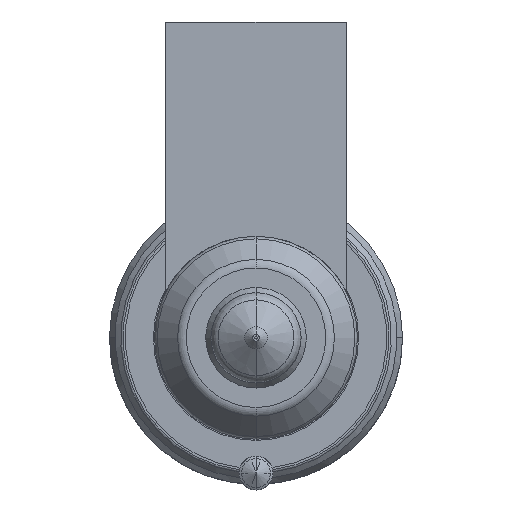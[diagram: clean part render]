
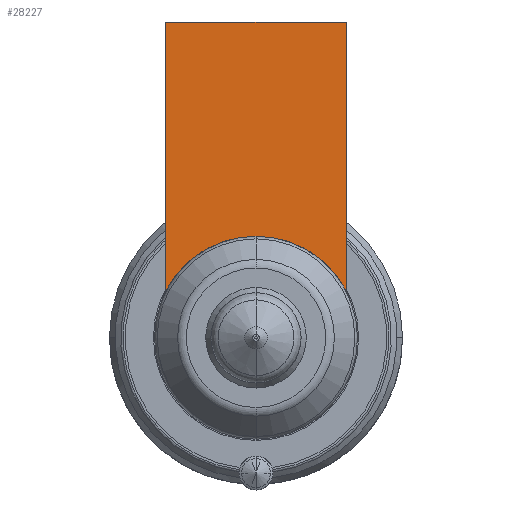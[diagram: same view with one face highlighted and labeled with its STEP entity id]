
A CAD part, front view. The second image highlights one B-rep face of the part: STEP entity #28227.
In plain terms, the highlighted planar face has unit normal (0, -1, 0).
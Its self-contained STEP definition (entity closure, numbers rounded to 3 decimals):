
#27406=DIRECTION('',(1.,0.,0.));
#27407=VECTOR('',#27406,16.);
#27408=CARTESIAN_POINT('',(-8.,-54.,28.));
#27409=LINE('',#27408,#27407);
#27414=CARTESIAN_POINT('',(0.,-54.,0.));
#27415=DIRECTION('',(0.,-1.,0.));
#27416=DIRECTION('',(0.889,0.,0.458));
#27417=AXIS2_PLACEMENT_3D('',#27414,#27415,#27416);
#27422=CARTESIAN_POINT('',(0.,-54.,0.));
#27423=DIRECTION('',(0.,-1.,0.));
#27424=DIRECTION('',(0.,0.,1.));
#27425=AXIS2_PLACEMENT_3D('',#27422,#27423,#27424);
#27451=DIRECTION('',(0.,0.,-1.));
#27452=VECTOR('',#27451,23.877);
#27453=CARTESIAN_POINT('',(-8.,-54.,28.));
#27454=LINE('',#27453,#27452);
#28079=DIRECTION('',(0.,0.,-1.));
#28080=VECTOR('',#28079,23.877);
#28081=CARTESIAN_POINT('',(8.,-54.,28.));
#28082=LINE('',#28081,#28080);
#28132=CARTESIAN_POINT('',(-8.,-54.,28.));
#28133=VERTEX_POINT('',#28132);
#28138=CARTESIAN_POINT('',(8.,-54.,28.));
#28139=VERTEX_POINT('',#28138);
#28142=CARTESIAN_POINT('',(-8.,-54.,4.123));
#28143=VERTEX_POINT('',#28142);
#28146=CARTESIAN_POINT('',(8.,-54.,4.123));
#28147=VERTEX_POINT('',#28146);
#28208=CARTESIAN_POINT('',(0.,-54.,9.));
#28209=VERTEX_POINT('',#28208);
#28210=CARTESIAN_POINT('',(0.,-54.,9.));
#28211=DIRECTION('',(0.,1.,0.));
#28212=DIRECTION('',(0.,0.,-1.));
#28213=AXIS2_PLACEMENT_3D('',#28210,#28211,#28212);
#28214=PLANE('',#28213);
#28216=ORIENTED_EDGE('',*,*,#28215,.F.);
#28218=ORIENTED_EDGE('',*,*,#28217,.T.);
#28220=ORIENTED_EDGE('',*,*,#28219,.T.);
#28222=ORIENTED_EDGE('',*,*,#28221,.T.);
#28224=ORIENTED_EDGE('',*,*,#28223,.T.);
#28225=EDGE_LOOP('',(#28216,#28218,#28220,#28222,#28224));
#28226=FACE_OUTER_BOUND('',#28225,.F.);
#28227=ADVANCED_FACE('',(#28226),#28214,.F.);
#27418=CIRCLE('',#27417,9.);
#27426=CIRCLE('',#27425,9.);
#28215=EDGE_CURVE('',#28133,#28143,#27454,.T.);
#28217=EDGE_CURVE('',#28133,#28139,#27409,.T.);
#28219=EDGE_CURVE('',#28139,#28147,#28082,.T.);
#28221=EDGE_CURVE('',#28147,#28209,#27418,.T.);
#28223=EDGE_CURVE('',#28209,#28143,#27426,.T.);
